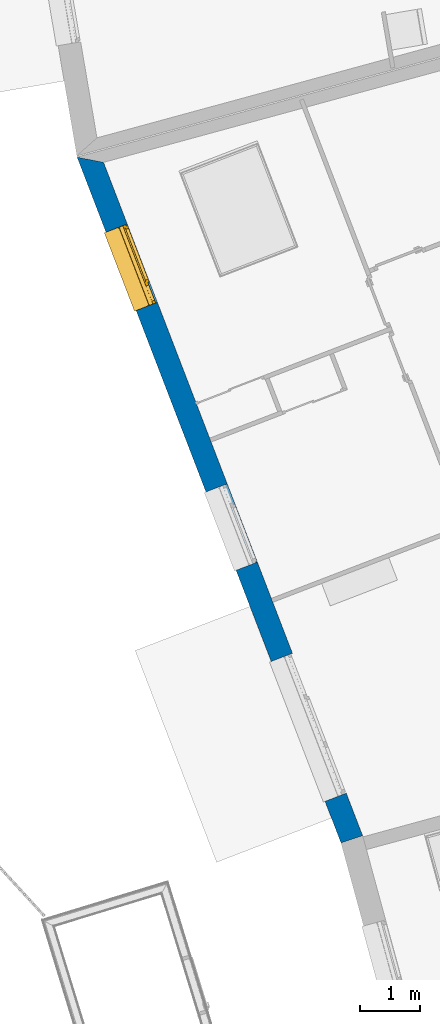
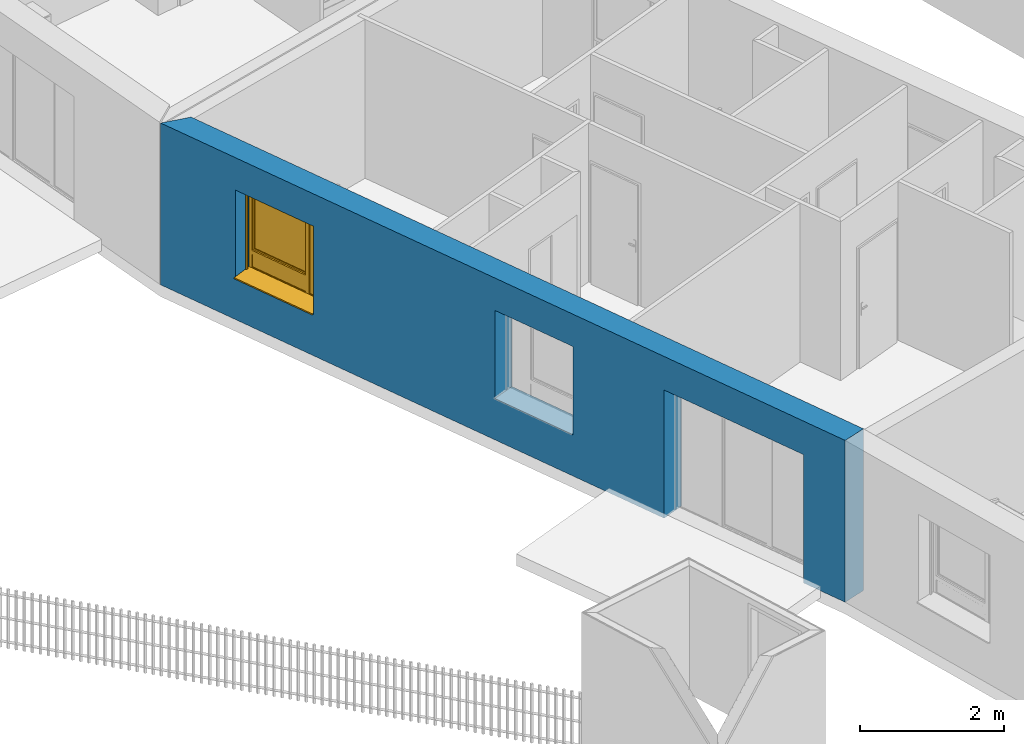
# One storey, part 74 of 195: 1 wall, 1 window, 3 openings.
"""IFC2X3 building model written with IfcOpenShell, lengths in metres."""

import ifcopenshell
import ifcopenshell.guid

model = None  # the IFC model being written
_history = None  # IfcOwnerHistory: only IFC2X3 demands one
_inside = {}  # id of a spatial element -> (the spatial element, [elements in it])
_under = {}  # id of a project, library or spatial element -> (it, [spatial elements below it])
_declared = {}  # id of a project -> (the project, [libraries it declares])
_typed = {}  # id of a type object -> (the type object, [elements of that type])
_made_of = {}  # id of a material, layer set ... -> (it, [elements and type objects made of it])


def new_model(schema):
    """Start an empty IFC model of exactly this schema.

    Asked for "IFC4X3", IfcOpenShell would pick the latest addendum, in which some entities
    have other attributes; the version numbers below select the first issue.
    IFC2X3 requires an IfcOwnerHistory on every rooted entity: one is made here for all.
    """
    global model, _history
    if schema == "IFC4X3":
        model = ifcopenshell.file(schema_version=(4, 3, 0, 0))
    else:
        model = ifcopenshell.file(schema=schema)
    _inside.clear()
    _under.clear()
    _declared.clear()
    _typed.clear()
    _made_of.clear()
    _history = None
    if model.schema == "IFC2X3":
        org = make("IfcOrganization", Name="unknown")
        user = make(
            "IfcPersonAndOrganization",
            ThePerson=make("IfcPerson", FamilyName="unknown"),
            TheOrganization=org,
        )
        app = make(
            "IfcApplication",
            ApplicationDeveloper=org,
            Version="unknown",
            ApplicationFullName="unknown",
            ApplicationIdentifier="unknown",
        )
        _history = make(
            "IfcOwnerHistory",
            OwningUser=user,
            OwningApplication=app,
            ChangeAction="ADDED",
            CreationDate=0,
        )
    return model


def make(cls, **values):
    """One entity of the class cls with the attributes given. An attribute that is None is left unset."""
    return model.create_entity(
        cls, **{name: value for name, value in values.items() if value is not None}
    )


def entity(cls, *values):
    """Any entity or typed value of the class cls, its attributes in the order of the schema. None: left unset."""
    e = model.create_entity(cls)
    for i, value in enumerate(values):
        if value is not None:
            e[i] = value
    return e


def rooted(cls, **values):
    """An entity with a GlobalId (a new one), such as an element, a storey or a relation."""
    return make(cls, GlobalId=ifcopenshell.guid.new(), OwnerHistory=_history, **values)


def si_unit(unit_type, name, prefix=None):
    """IfcSIUnit, for example si_unit("LENGTHUNIT", "METRE", prefix="MILLI")."""
    return make("IfcSIUnit", UnitType=unit_type, Prefix=prefix, Name=name)


def converted_unit(unit_type, name, factor, base, dimensions=None, offset=None):
    """IfcConversionBasedUnit, such as the inch: factor (a typed value) times the base unit."""
    return make(
        "IfcConversionBasedUnit"
        if offset is None
        else "IfcConversionBasedUnitWithOffset",
        ConversionOffset=offset,
        Dimensions=None
        if dimensions is None
        else entity("IfcDimensionalExponents", *dimensions),
        UnitType=unit_type,
        Name=name,
        ConversionFactor=make(
            "IfcMeasureWithUnit", ValueComponent=factor, UnitComponent=base
        ),
    )


def derived_unit(unit_type, elements):
    """IfcDerivedUnit: a product of units, each with its exponent."""
    return make(
        "IfcDerivedUnit",
        Elements=[
            make("IfcDerivedUnitElement", Unit=unit, Exponent=power)
            for unit, power in elements
        ],
        UnitType=unit_type,
    )


def money_unit(currency):
    """IfcMonetaryUnit."""
    return make("IfcMonetaryUnit", Currency=currency)


def assignment(units):
    """IfcUnitAssignment: the units of a project."""
    return None if units is None else make("IfcUnitAssignment", Units=units)


def point(xyz):
    """IfcCartesianPoint."""
    return None if xyz is None else make("IfcCartesianPoint", Coordinates=xyz)


def direction(xyz):
    """IfcDirection."""
    return None if xyz is None else make("IfcDirection", DirectionRatios=xyz)


def frame(location, z_axis=None, x_axis=None):
    """IfcAxis2Placement3D, a coordinate frame: its origin and axes. An axis left out is left unset."""
    return make(
        "IfcAxis2Placement3D",
        Location=point(location),
        Axis=direction(z_axis),
        RefDirection=direction(x_axis),
    )


def origin_with_axes():
    """The frame at (0, 0, 0) with the z axis (0, 0, 1) and the x axis (1, 0, 0) written out."""
    return frame((0.0, 0.0, 0.0), z_axis=(0.0, 0.0, 1.0), x_axis=(1.0, 0.0, 0.0))


def place(relative_to, where):
    """IfcLocalPlacement: puts the frame where relative to a parent placement (None: the world)."""
    return make(
        "IfcLocalPlacement", PlacementRelTo=relative_to, RelativePlacement=where
    )


def context(
    kind, dimensions, precision=None, world=None, true_north=None, identifier=None
):
    """IfcGeometricRepresentationContext, for example the 3D "Model" context."""
    return make(
        "IfcGeometricRepresentationContext",
        ContextIdentifier=identifier,
        ContextType=kind,
        CoordinateSpaceDimension=dimensions,
        Precision=precision,
        WorldCoordinateSystem=world,
        TrueNorth=true_north,
    )


def subcontext(parent, identifier, kind, view, scale=None):
    """IfcGeometricRepresentationSubContext, for example "Body" below "Model"."""
    return make(
        "IfcGeometricRepresentationSubContext",
        ContextIdentifier=identifier,
        ContextType=kind,
        ParentContext=parent,
        TargetScale=scale,
        TargetView=view,
    )


def project(units=None, contexts=None):
    """IfcProject with its units and contexts."""
    return rooted(
        "IfcProject",
        Name="project",
        RepresentationContexts=contexts,
        UnitsInContext=assignment(units),
    )


def spatial(cls, under=None, at=None, **own):
    """A site, building, storey or space (cls), placed at a placement, below another one or the project."""
    s = rooted(cls, ObjectPlacement=at, **own)
    if under is not None:
        _under.setdefault(under.id(), (under, []))[1].append(s)
    return s


def polyline(points):
    """IfcPolyline through the points."""
    return make("IfcPolyline", Points=[point(p) for p in points])


def outline(outer, holes=None, kind="AREA"):
    """IfcArbitraryClosedProfileDef: a profile drawn as a closed curve; with holes, ...WithVoids."""
    if holes is None:
        return make("IfcArbitraryClosedProfileDef", ProfileType=kind, OuterCurve=outer)
    return make(
        "IfcArbitraryProfileDefWithVoids",
        ProfileType=kind,
        OuterCurve=outer,
        InnerCurves=holes,
    )


def extrude(swept, where, along, depth):
    """IfcExtrudedAreaSolid: the profile swept, set in the frame where, extruded along a direction by depth."""
    return make(
        "IfcExtrudedAreaSolid",
        SweptArea=swept,
        Position=where,
        ExtrudedDirection=direction(along),
        Depth=depth,
    )


def faces_of(points, faces, orient=None, outer=None):
    """IfcFace entities. A face is a list of loops; a loop is a list of indices into points, from 0.

    orient and outer hold one flag for each loop. By default every Orientation is true, the
    first loop of a face is its IfcFaceOuterBound and the others are IfcFaceBound.
    """
    made = []
    for i, loops in enumerate(faces):
        bounds = []
        for j, loop in enumerate(loops):
            is_outer = j == 0 if outer is None else outer[i][j]
            bounds.append(
                make(
                    "IfcFaceOuterBound" if is_outer else "IfcFaceBound",
                    Bound=make("IfcPolyLoop", Polygon=[points[k] for k in loop]),
                    Orientation=True if orient is None else orient[i][j],
                )
            )
        made.append(make("IfcFace", Bounds=bounds))
    return made


def open_shell(faces, orient=None, outer=None):
    """The faces of one IfcOpenShell. surface_model builds it on its shared points."""
    return ("IfcOpenShell", faces, orient, outer)


def faceted_brep(points, faces, orient=None, outer=None, voids=None):
    """IfcFacetedBrep: a solid bounded by flat faces; with voids (closed shells), ...WithVoids."""
    shared = [point(p) for p in points]
    hull = make("IfcClosedShell", CfsFaces=faces_of(shared, faces, orient, outer))
    if voids is None:
        return make("IfcFacetedBrep", Outer=hull)
    return make(
        "IfcFacetedBrepWithVoids",
        Outer=hull,
        Voids=[
            make(cls, CfsFaces=faces_of(shared, fs, o, b)) for cls, fs, o, b in voids
        ],
    )


def surface_model(cls, points, shells):
    """IfcFaceBasedSurfaceModel or IfcShellBasedSurfaceModel (cls): surfaces that need not close."""
    shared = [point(p) for p in points]
    made = [make(c, CfsFaces=faces_of(shared, fs, o, b)) for c, fs, o, b in shells]
    if cls == "IfcFaceBasedSurfaceModel":
        return make(cls, FbsmFaces=made)
    return make(cls, SbsmBoundary=made)


def shape(context_of_items, identifier, shape_type, items):
    """IfcShapeRepresentation: the items that make up one representation, for example the "Body"."""
    return make(
        "IfcShapeRepresentation",
        ContextOfItems=context_of_items,
        RepresentationIdentifier=identifier,
        RepresentationType=shape_type,
        Items=items,
    )


def source(mapping_origin, context_of_items, identifier, shape_type, items):
    """IfcRepresentationMap: a shape defined once, which mapped items show again and again."""
    return make(
        "IfcRepresentationMap",
        MappingOrigin=mapping_origin,
        MappedRepresentation=shape(context_of_items, identifier, shape_type, items),
    )


def transform(
    local_origin,
    x_axis=None,
    y_axis=None,
    z_axis=None,
    scale=None,
    scale2=None,
    scale3=None,
    uniform=True,
):
    """IfcCartesianTransformationOperator3D, or its non-uniform kind. x_axis, y_axis, z_axis: its Axis1, 2, 3."""
    if uniform:
        return make(
            "IfcCartesianTransformationOperator3D",
            Axis1=direction(x_axis),
            Axis2=direction(y_axis),
            LocalOrigin=point(local_origin),
            Scale=scale,
            Axis3=direction(z_axis),
        )
    return make(
        "IfcCartesianTransformationOperator3DnonUniform",
        Axis1=direction(x_axis),
        Axis2=direction(y_axis),
        LocalOrigin=point(local_origin),
        Scale=scale,
        Axis3=direction(z_axis),
        Scale2=scale2,
        Scale3=scale3,
    )


def mapped(mapping_source, mapping_target):
    """IfcMappedItem: shows the shape of a source again, moved by a transform."""
    return make(
        "IfcMappedItem", MappingSource=mapping_source, MappingTarget=mapping_target
    )


def material(Name=None, Category=None):
    """IfcMaterial."""
    return make("IfcMaterial", Name=Name, Category=Category)


def layer(
    of_material, thickness, ventilated=None, Name=None, Category=None, Priority=None
):
    """IfcMaterialLayer: one layer of a wall or slab, of a material (None: an air gap)."""
    return make(
        "IfcMaterialLayer",
        Material=of_material,
        LayerThickness=thickness,
        IsVentilated=ventilated,
        Name=Name,
        Category=Category,
        Priority=Priority,
    )


def layer_set(layers, Name=None):
    """IfcMaterialLayerSet."""
    return make("IfcMaterialLayerSet", MaterialLayers=layers, LayerSetName=Name)


def layer_usage(for_layer_set, set_direction, sense, offset, extent=None):
    """IfcMaterialLayerSetUsage: how a layer set lies in its element."""
    return make(
        "IfcMaterialLayerSetUsage",
        ForLayerSet=for_layer_set,
        LayerSetDirection=set_direction,
        DirectionSense=sense,
        OffsetFromReferenceLine=offset,
        ReferenceExtent=extent,
    )


def made_of(thing, what):
    """Note that an element or type object is made of a material, layer set ...; save() writes the relation."""
    if what is not None:
        _made_of.setdefault(what.id(), (what, []))[1].append(thing)
    return thing


def type_object(cls, material=None, **own):
    """A type object (cls), such as IfcWallType, which elements share."""
    return made_of(rooted(cls, **own), material)


def element(
    cls,
    number,
    at=None,
    inside=None,
    cuts=None,
    type_object=None,
    material=None,
    context=None,
    identifier="Body",
    shape_type=None,
    held_by="IfcProductDefinitionShape",
    body=None,
    shapes=None,
    **own,
):
    """One element of the class cls, such as IfcWall. Its Tag is "e" and its number.

    at: its placement. inside: the storey or other place that contains it. cuts: it is an
    opening in that element (IfcRelVoidsElement). A single representation is given by context,
    identifier, shape_type and body (its items); several are given by shapes. held_by: the class
    of the entity that holds the representations. save() writes the other relations.
    """
    e = rooted(cls, Tag="e%d" % number, ObjectPlacement=at, **own)
    if body is not None:
        shapes = [shape(context, identifier, shape_type, body)]
    if shapes is not None:
        e.Representation = make(held_by, Representations=shapes)
    if inside is not None:
        _inside.setdefault(inside.id(), (inside, []))[1].append(e)
    if cuts is not None:
        rooted(
            "IfcRelVoidsElement", RelatingBuildingElement=cuts, RelatedOpeningElement=e
        )
    if type_object is not None:
        _typed.setdefault(type_object.id(), (type_object, []))[1].append(e)
    return made_of(e, material)


def fill(opening, filler):
    """IfcRelFillsElement: the door or window that sits in an opening."""
    return rooted(
        "IfcRelFillsElement",
        RelatingOpeningElement=opening,
        RelatedBuildingElement=filler,
    )


def aggregate(whole, parts):
    """IfcRelAggregates: a whole, such as a stair, and the parts it consists of."""
    return rooted("IfcRelAggregates", RelatingObject=whole, RelatedObjects=parts)


def save(model, path):
    """Write the relations noted so far, then the file.

    IfcRelAggregates (storeys below a building ...), IfcRelContainedInSpatialStructure (elements
    in a storey), IfcRelDefinesByType, IfcRelAssociatesMaterial and IfcRelDeclares: one each for
    every whole, place, type object, material and project.
    """
    for whole, parts in _under.values():
        aggregate(whole, parts)
    for where, things in _inside.values():
        rooted(
            "IfcRelContainedInSpatialStructure",
            RelatedElements=things,
            RelatingStructure=where,
        )
    for kind, things in _typed.values():
        rooted("IfcRelDefinesByType", RelatedObjects=things, RelatingType=kind)
    for what, things in _made_of.values():
        rooted("IfcRelAssociatesMaterial", RelatedObjects=things, RelatingMaterial=what)
    for by, libraries in _declared.values():
        rooted("IfcRelDeclares", RelatingContext=by, RelatedDefinitions=libraries)
    model.write(path)


model = new_model("IFC2X3")

# Units and contexts
model_context = context("Model", 3, precision=1e-05, world=origin_with_axes(), true_north=direction((0.0, 1.0)))
body_context = subcontext(model_context, "Body", "Model", "MODEL_VIEW")
ifc_project = project(units=[si_unit("LENGTHUNIT", "METRE"), si_unit("AREAUNIT", "SQUARE_METRE"), si_unit("VOLUMEUNIT", "CUBIC_METRE"), converted_unit("PLANEANGLEUNIT", "DEGREE", entity("IfcPlaneAngleMeasure", 0.0174532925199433), si_unit("PLANEANGLEUNIT", "RADIAN"), dimensions=[0, 0, 0, 0, 0, 0, 0]), money_unit("CHF"), converted_unit("TIMEUNIT", "Year", entity("IfcTimeMeasure", 31557600.0), si_unit("TIMEUNIT", "SECOND"), dimensions=[0, 0, 1, 0, 0, 0, 0]), si_unit("MASSUNIT", "GRAM", prefix="KILO"), si_unit("THERMODYNAMICTEMPERATUREUNIT", "DEGREE_CELSIUS"), si_unit("LUMINOUSINTENSITYUNIT", "LUMEN"), si_unit("ENERGYUNIT", "JOULE", prefix="MEGA"), derived_unit("THERMALCONDUCTANCEUNIT", [(si_unit("POWERUNIT", "WATT"), 1), (si_unit("LENGTHUNIT", "METRE"), -1), (si_unit("THERMODYNAMICTEMPERATUREUNIT", "KELVIN"), -1)]), derived_unit("SPECIFICHEATCAPACITYUNIT", [(si_unit("ENERGYUNIT", "JOULE"), 1), (si_unit("MASSUNIT", "GRAM", prefix="KILO"), -1), (si_unit("THERMODYNAMICTEMPERATUREUNIT", "KELVIN"), -1)]), derived_unit("MASSDENSITYUNIT", [(si_unit("MASSUNIT", "GRAM", prefix="KILO"), 1), (si_unit("VOLUMEUNIT", "CUBIC_METRE"), -1)])], contexts=[model_context])

# Site, building, storey
site_placement = place(None, origin_with_axes())
site = spatial("IfcSite", under=ifc_project, at=site_placement, Name="Site", CompositionType="ELEMENT")
building_placement = place(site_placement, origin_with_axes())
building = spatial("IfcBuilding", under=site, at=building_placement, Name="Bâtiment", CompositionType="ELEMENT")
storey_placement = place(building_placement, origin_with_axes())
storey = spatial("IfcBuildingStorey", under=building, at=storey_placement, Name="rdc", CompositionType="ELEMENT", Elevation=0.0)

# Wall, openings, window
ifc_material_1 = material(Name="Parpaing 312445824")
ifc_layer_1 = layer(ifc_material_1, 0.22, ventilated="UNKNOWN")
ifc_material_2 = material(Name="Isolant styromousse 301821074")
ifc_layer_2 = layer(ifc_material_2, 0.16, ventilated="UNKNOWN")
ifc_layer_set = layer_set([ifc_layer_1, ifc_layer_2], Name="isol int 22+16 0836643197")
ifc_layer_usage = layer_usage(ifc_layer_set, "AXIS2", "POSITIVE", 0.0)
wall_type = type_object("IfcWallType", Name="isol int 22+16 0836643197 380", PredefinedType="NOTDEFINED")
wall_placement = place(storey_placement, frame((9581.97653269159, -1035.644242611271, 57.7), z_axis=(0.0, 0.0, 1.0), x_axis=(0.3591526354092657, -0.9332788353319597, 0.0)))
wall = element("IfcWallStandardCase", 1, at=wall_placement, inside=storey, type_object=wall_type, material=ifc_layer_usage, Name="Mur-113", context=body_context, shape_type="SweptSolid", body=[
    extrude(outline(polyline([(0.0, 0.0), (12.25544607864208, 0.0), (12.27474861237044, 0.3799999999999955), (0.2397397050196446, 0.3799999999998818), (0.0, 0.0)])), origin_with_axes(), (0.0, 0.0, 1.0), 2.75),
])
opening_1_placement = place(wall_placement, frame((2.041326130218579, 0.0, 0.7000000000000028), z_axis=(0.0, 0.0, 1.0), x_axis=(1.0, 0.0, 0.0)))
opening_1 = element("IfcOpeningElement", 2, at=opening_1_placement, cuts=wall, Name="Fen-045", context=body_context, shape_type="Brep", body=[
    faceted_brep([(-0.7000000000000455, 0.4799999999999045, 1.5), (0.6999999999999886, 0.4799999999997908, 1.5), (0.6999999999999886, 4.488897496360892, 1.5), (-0.6999999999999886, 4.488897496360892, 1.5), (-0.7000000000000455, 0.4799999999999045, 1.700000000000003), (0.6999999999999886, 0.4799999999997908, 1.700000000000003), (0.6999999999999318, 0.2999999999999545, 1.5), (0.6999999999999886, 0.2999999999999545, 0.0), (0.6999999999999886, 4.488897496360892, 0.0), (-0.6999999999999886, 4.488897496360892, 0.0), (-0.7000000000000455, 0.2999999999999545, 1.5), (-0.7000000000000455, 0.2999999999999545, 0.0), (-0.7000000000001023, 0.2199999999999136, 1.5), (-0.7000000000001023, 0.2199999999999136, 1.700000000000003), (0.6999999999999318, 0.2199999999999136, 1.700000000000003), (0.6999999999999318, 0.2199999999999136, 1.5), (0.6999999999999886, -4.108897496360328, 1.5), (0.6999999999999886, -4.108897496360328, 0.0), (-0.6999999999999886, -4.108897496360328, 0.0), (-0.6999999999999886, -4.108897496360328, 1.5)], [[[0, 1, 2, 3]], [[1, 0, 4, 5]], [[1, 6, 7, 8, 2]], [[2, 8, 9, 3]], [[10, 0, 3, 9, 11]], [[0, 10, 12, 13, 4]], [[14, 5, 4, 13]], [[6, 1, 5, 14, 15]], [[6, 15, 16, 17, 7]], [[7, 11, 9, 8]], [[12, 10, 11, 18, 19]], [[12, 15, 14, 13]], [[15, 12, 19, 16]], [[19, 18, 17, 16]], [[11, 7, 17, 18]]]),
])
opening_2_placement = place(wall_placement, frame((10.26361787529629, 0.0, 0.0), z_axis=(0.0, 0.0, 1.0), x_axis=(1.0, 0.0, 0.0)))
element("IfcOpeningElement", 3, at=opening_2_placement, cuts=wall, Name="Fen-045", context=body_context, shape_type="Brep", body=[
    faceted_brep([(-1.25, 0.4800000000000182, 2.18), (1.25, 0.4800000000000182, 2.18), (1.250000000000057, 4.488897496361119, 2.18), (-1.25, 4.488897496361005, 2.18), (-1.25, 0.4800000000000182, 2.380000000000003), (1.25, 0.4800000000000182, 2.380000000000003), (1.25, 0.3000000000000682, 2.18), (1.25, 0.3000000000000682, 0.0), (1.250000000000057, 4.488897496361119, 0.0), (-1.25, 4.488897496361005, 0.0), (-1.25, 0.3000000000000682, 2.18), (-1.25, 0.3000000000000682, 0.0), (-1.25, 0.2200000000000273, 2.18), (-1.25, 0.2200000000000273, 2.380000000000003), (1.25, 0.220000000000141, 2.380000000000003), (1.25, 0.220000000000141, 2.18), (1.25, -4.108897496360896, 2.18), (1.25, -4.108897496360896, 0.0), (-1.25, -4.108897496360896, 0.0), (-1.25, -4.108897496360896, 2.18)], [[[0, 1, 2, 3]], [[1, 0, 4, 5]], [[1, 6, 7, 8, 2]], [[2, 8, 9, 3]], [[10, 0, 3, 9, 11]], [[0, 10, 12, 13, 4]], [[4, 13, 14, 5]], [[6, 1, 5, 14, 15]], [[6, 15, 16, 17, 7]], [[7, 11, 9, 8]], [[12, 10, 11, 18, 19]], [[12, 15, 14, 13]], [[15, 12, 19, 16]], [[19, 18, 17, 16]], [[11, 7, 17, 18]]]),
])
opening_3_placement = place(wall_placement, frame((6.684094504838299, 0.0, 0.7000000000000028), z_axis=(0.0, 0.0, 1.0), x_axis=(1.0, 0.0, 0.0)))
element("IfcOpeningElement", 4, at=opening_3_placement, cuts=wall, Name="Fen-045", context=body_context, shape_type="Brep", body=[
    faceted_brep([(-0.6999999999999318, 0.4800000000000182, 1.5), (0.7000000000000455, 0.4800000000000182, 1.5), (0.7000000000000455, 4.488897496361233, 1.5), (-0.6999999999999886, 4.488897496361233, 1.5), (-0.6999999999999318, 0.4800000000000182, 1.700000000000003), (0.7000000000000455, 0.4800000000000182, 1.700000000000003), (0.6999999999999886, 0.3000000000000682, 1.5), (0.6999999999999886, 0.3000000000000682, 0.0), (0.7000000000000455, 4.488897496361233, 0.0), (-0.6999999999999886, 4.488897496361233, 0.0), (-0.6999999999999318, 0.2999999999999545, 1.5), (-0.6999999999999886, 0.2999999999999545, 0.0), (-0.6999999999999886, 0.2200000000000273, 1.5), (-0.6999999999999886, 0.2200000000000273, 1.700000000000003), (0.7000000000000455, 0.2200000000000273, 1.700000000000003), (0.7000000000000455, 0.2200000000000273, 1.5), (0.6999999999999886, -4.108897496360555, 1.5), (0.6999999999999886, -4.108897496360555, 0.0), (-0.6999999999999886, -4.108897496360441, 0.0), (-0.6999999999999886, -4.108897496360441, 1.5)], [[[0, 1, 2, 3]], [[1, 0, 4, 5]], [[1, 6, 7, 8, 2]], [[2, 8, 9, 3]], [[10, 0, 3, 9, 11]], [[0, 10, 12, 13, 4]], [[4, 13, 14, 5]], [[6, 1, 5, 14, 15]], [[6, 15, 16, 17, 7]], [[7, 11, 9, 8]], [[12, 10, 11, 18, 19]], [[12, 15, 14, 13]], [[15, 12, 19, 16]], [[19, 18, 17, 16]], [[11, 7, 17, 18]]]),
])
window_style = type_object("IfcWindowStyle", Name="Fenêtre variable 27", ConstructionType="NOTDEFINED", OperationType="TRIPLE_PANEL_RIGHT", ParameterTakesPrecedence=False, Sizeable=False)
shared_shape = source(origin_with_axes(), body_context, "Body", "SurfaceModel", [
    surface_model("IfcShellBasedSurfaceModel", [(-0.7, -0.05100000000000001, 0.05), (-0.7, -0.05100000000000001, 0.04), (0.7, -0.05100000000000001, 0.04000000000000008), (0.7, -0.05100000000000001, 0.05000000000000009), (-0.7, -0.3799999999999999, 0.02899999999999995), (0.7, -0.3799999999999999, 0.02900000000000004), (-0.7, -0.3799999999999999, 0.008999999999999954), (0.7, -0.3799999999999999, 0.00900000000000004), (-0.7, -0.3699999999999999, 0.01899999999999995), (0.7, -0.3699999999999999, 0.01900000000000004)], [open_shell([[[0, 1, 2, 3]], [[1, 4, 5, 2]], [[4, 6, 7, 5]], [[6, 8, 9, 7]]])]),
    faceted_brep([(-0.7, -0.13, 1.7), (-0.697, -0.13, 1.7), (-0.697, 0.13, 1.7), (-0.7, 0.13, 1.7), (-0.7, -0.13, 1.5), (-0.697, -0.13, 1.5), (-0.697, 0.13, 1.5), (-0.7, 0.13, 1.5)], [[[0, 1, 2, 3]], [[4, 5, 1, 0]], [[1, 5, 6, 2]], [[3, 2, 6, 7]], [[0, 3, 7, 4]], [[7, 6, 5, 4]]]),
    faceted_brep([(0.6970000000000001, -0.1299999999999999, 1.7), (0.7000000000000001, -0.1299999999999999, 1.7), (0.7000000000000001, 0.1300000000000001, 1.7), (0.6970000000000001, 0.1300000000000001, 1.7), (0.6970000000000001, -0.1299999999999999, 1.5), (0.7000000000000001, -0.1299999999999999, 1.5), (0.7000000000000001, 0.1300000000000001, 1.5), (0.6970000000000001, 0.1300000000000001, 1.5)], [[[0, 1, 2, 3]], [[4, 5, 1, 0]], [[1, 5, 6, 2]], [[3, 2, 6, 7]], [[0, 3, 7, 4]], [[7, 6, 5, 4]]]),
    faceted_brep([(-0.697, -0.13, 1.5), (0.697, -0.1299999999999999, 1.5), (0.697, -0.1299999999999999, 1.7), (-0.697, -0.13, 1.7), (-0.697, -0.127, 1.5), (0.697, -0.1269999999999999, 1.5), (0.697, -0.1269999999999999, 1.697), (0.697, 0.1270000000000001, 1.697), (0.697, 0.1270000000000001, 1.503), (0.697, -0.1079999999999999, 1.503), (0.697, -0.1079999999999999, 1.5), (0.697, 0.1300000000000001, 1.5), (0.697, 0.1300000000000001, 1.7), (-0.697, 0.13, 1.7), (-0.697, 0.13, 1.5), (-0.697, -0.108, 1.5), (-0.697, -0.108, 1.503), (-0.697, 0.127, 1.503), (-0.697, 0.127, 1.697), (-0.697, -0.127, 1.697)], [[[0, 1, 2, 3]], [[4, 5, 1, 0]], [[1, 5, 6, 7, 8, 9, 10, 11, 12, 2]], [[3, 2, 12, 13]], [[0, 3, 13, 14, 15, 16, 17, 18, 19, 4]], [[19, 6, 5, 4]], [[18, 7, 6, 19]], [[17, 8, 7, 18]], [[16, 9, 8, 17]], [[15, 10, 9, 16]], [[14, 11, 10, 15]], [[13, 12, 11, 14]]]),
    faceted_brep([(-0.694, -0.08075423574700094, 1.585760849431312), (-0.694, -0.08200000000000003, 1.6), (-0.694, -0.0807542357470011, 1.614239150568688), (-0.694, -0.07705479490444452, 1.628045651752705), (-0.694, -0.07101408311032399, 1.641), (-0.694, -0.06281564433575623, 1.652708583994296), (-0.694, -0.05270858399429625, 1.662815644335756), (-0.694, -0.04100000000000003, 1.671014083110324), (-0.694, -0.02804565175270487, 1.677054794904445), (-0.694, -0.01423915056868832, 1.680754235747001), (-0.694, 0.0, 1.682), (-0.694, 0.01423915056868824, 1.680754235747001), (-0.694, 0.02804565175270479, 1.677054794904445), (-0.694, 0.04099999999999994, 1.671014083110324), (-0.694, 0.05270858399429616, 1.662815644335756), (-0.694, 0.06281564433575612, 1.652708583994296), (-0.694, 0.07101408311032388, 1.641), (-0.694, 0.0770547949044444, 1.628045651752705), (-0.694, 0.08075423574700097, 1.614239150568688), (-0.694, 0.0819999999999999, 1.6), (-0.694, 0.08075423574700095, 1.585760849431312), (-0.694, 0.07705479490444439, 1.571954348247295), (-0.694, 0.07101408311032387, 1.559), (-0.694, 0.06281564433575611, 1.547291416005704), (-0.694, 0.05270858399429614, 1.537184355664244), (-0.694, 0.04099999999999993, 1.528985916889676), (-0.694, 0.02804565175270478, 1.522945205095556), (-0.694, 0.01423915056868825, 1.519245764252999), (-0.694, 0.0, 1.518), (-0.694, -0.01423915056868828, 1.519245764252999), (-0.694, -0.02804565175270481, 1.522945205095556), (-0.694, -0.04099999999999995, 1.528985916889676), (-0.694, -0.05270858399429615, 1.537184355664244), (-0.694, -0.06281564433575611, 1.547291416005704), (-0.694, -0.07101408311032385, 1.559), (-0.694, -0.07705479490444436, 1.571954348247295), (0.694, -0.08075423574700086, 1.585760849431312), (0.694, -0.08199999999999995, 1.6), (0.694, -0.08075423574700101, 1.614239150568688), (0.694, -0.07705479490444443, 1.628045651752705), (0.694, -0.07101408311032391, 1.641), (0.694, -0.06281564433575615, 1.652708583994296), (0.694, -0.05270858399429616, 1.662815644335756), (0.694, -0.04099999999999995, 1.671014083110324), (0.694, -0.02804565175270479, 1.677054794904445), (0.694, -0.01423915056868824, 1.680754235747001), (0.694, 0.0, 1.682), (0.694, 0.01423915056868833, 1.680754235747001), (0.694, 0.02804565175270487, 1.677054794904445), (0.694, 0.04100000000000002, 1.671014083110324), (0.694, 0.05270858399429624, 1.662815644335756), (0.694, 0.0628156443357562, 1.652708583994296), (0.694, 0.07101408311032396, 1.641), (0.694, 0.07705479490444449, 1.628045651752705), (0.694, 0.08075423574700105, 1.614239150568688), (0.694, 0.08199999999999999, 1.6), (0.694, 0.08075423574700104, 1.585760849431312), (0.694, 0.07705479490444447, 1.571954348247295), (0.694, 0.07101408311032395, 1.559), (0.694, 0.06281564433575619, 1.547291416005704), (0.694, 0.05270858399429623, 1.537184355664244), (0.694, 0.04100000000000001, 1.528985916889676), (0.694, 0.02804565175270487, 1.522945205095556), (0.694, 0.01423915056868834, 1.519245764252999), (0.694, 0.0, 1.518), (0.694, -0.0142391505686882, 1.519245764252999), (0.694, -0.02804565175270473, 1.522945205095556), (0.694, -0.04099999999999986, 1.528985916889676), (0.694, -0.05270858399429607, 1.537184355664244), (0.694, -0.06281564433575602, 1.547291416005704), (0.694, -0.07101408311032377, 1.559), (0.694, -0.07705479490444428, 1.571954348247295)], [[[0, 1, 2, 3, 4, 5, 6, 7, 8, 9, 10, 11, 12, 13, 14, 15, 16, 17, 18, 19, 20, 21, 22, 23, 24, 25, 26, 27, 28, 29, 30, 31, 32, 33, 34, 35]], [[0, 36, 37, 1]], [[1, 37, 38, 2]], [[2, 38, 39, 3]], [[3, 39, 40, 4]], [[4, 40, 41, 5]], [[5, 41, 42, 6]], [[6, 42, 43, 7]], [[7, 43, 44, 8]], [[8, 44, 45, 9]], [[9, 45, 46, 10]], [[10, 46, 47, 11]], [[11, 47, 48, 12]], [[12, 48, 49, 13]], [[13, 49, 50, 14]], [[14, 50, 51, 15]], [[15, 51, 52, 16]], [[16, 52, 53, 17]], [[17, 53, 54, 18]], [[18, 54, 55, 19]], [[19, 55, 56, 20]], [[20, 56, 57, 21]], [[21, 57, 58, 22]], [[22, 58, 59, 23]], [[23, 59, 60, 24]], [[24, 60, 61, 25]], [[25, 61, 62, 26]], [[26, 62, 63, 27]], [[27, 63, 64, 28]], [[28, 64, 65, 29]], [[29, 65, 66, 30]], [[30, 66, 67, 31]], [[31, 67, 68, 32]], [[32, 68, 69, 33]], [[33, 69, 70, 34]], [[34, 70, 71, 35]], [[35, 71, 36, 0]], [[36, 71, 70, 69, 68, 67, 66, 65, 64, 63, 62, 61, 60, 59, 58, 57, 56, 55, 54, 53, 52, 51, 50, 49, 48, 47, 46, 45, 44, 43, 42, 41, 40, 39, 38, 37]]]),
    faceted_brep([(0.7, -0.105, 0.03), (0.7, -0.1049999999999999, 1.5), (0.7, -0.1299999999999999, 1.5), (0.7, -0.13, 0.03), (0.6749999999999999, -0.105, 0.03), (0.6749999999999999, -0.1049999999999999, 1.5), (0.6749999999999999, -0.1079999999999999, 1.5), (0.697, -0.1079999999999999, 1.5), (0.697, -0.1269999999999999, 1.5), (0.6749999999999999, -0.1269999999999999, 1.5), (0.6749999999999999, -0.1299999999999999, 1.5), (0.6749999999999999, -0.13, 0.03), (0.6749999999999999, -0.127, 0.03), (0.697, -0.127, 0.03), (0.697, -0.108, 0.03), (0.6749999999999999, -0.108, 0.03)], [[[0, 1, 2, 3]], [[4, 5, 1, 0]], [[1, 5, 6, 7, 8, 9, 10, 2]], [[3, 2, 10, 11]], [[0, 3, 11, 12, 13, 14, 15, 4]], [[15, 6, 5, 4]], [[14, 7, 6, 15]], [[13, 8, 7, 14]], [[12, 9, 8, 13]], [[11, 10, 9, 12]]]),
    faceted_brep([(-0.7, -0.105, 0.03), (-0.7, -0.13, 0.03), (-0.7, -0.1299999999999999, 1.5), (-0.7, -0.1049999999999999, 1.5), (-0.6749999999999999, -0.105, 0.03), (-0.6749999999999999, -0.108, 0.03), (-0.697, -0.108, 0.03), (-0.697, -0.127, 0.03), (-0.6749999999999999, -0.127, 0.03), (-0.6749999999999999, -0.13, 0.03), (-0.6749999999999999, -0.1299999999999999, 1.5), (-0.6749999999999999, -0.1269999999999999, 1.5), (-0.697, -0.1269999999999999, 1.5), (-0.697, -0.1079999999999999, 1.5), (-0.6749999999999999, -0.1079999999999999, 1.5), (-0.6749999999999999, -0.1049999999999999, 1.5)], [[[0, 1, 2, 3]], [[0, 4, 5, 6, 7, 8, 9, 1]], [[1, 9, 10, 2]], [[3, 2, 10, 11, 12, 13, 14, 15]], [[4, 0, 3, 15]], [[5, 4, 15, 14]], [[6, 5, 14, 13]], [[7, 6, 13, 12]], [[8, 7, 12, 11]], [[9, 8, 11, 10]]]),
    surface_model("IfcShellBasedSurfaceModel", [(-0.697, -0.115, 1.6), (0.697, -0.1149999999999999, 1.6), (0.697, -0.1199999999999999, 1.6), (-0.697, -0.12, 1.6), (-0.697, -0.115, 1.6), (-0.697, -0.12, 1.6), (0.697, -0.12, 1.6), (0.697, -0.1149999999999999, 1.6)], [open_shell([[[0, 1, 2, 3]], [[4, 5, 6, 7]]])]),
    faceted_brep([(-0.697, -0.115, 1.6), (0.697, -0.1149999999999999, 1.6), (0.697, -0.1166666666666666, 1.583333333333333), (-0.697, -0.1166666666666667, 1.583333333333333), (-0.697, -0.12, 1.6), (0.697, -0.1199999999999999, 1.6), (0.697, -0.1216666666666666, 1.583333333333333), (0.697, -0.1216666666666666, 1.566666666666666), (0.697, -0.1199999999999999, 1.55), (0.697, -0.1149999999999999, 1.55), (0.697, -0.1166666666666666, 1.566666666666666), (-0.697, -0.1166666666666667, 1.566666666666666), (-0.697, -0.115, 1.55), (-0.697, -0.12, 1.55), (-0.697, -0.1216666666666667, 1.566666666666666), (-0.697, -0.1216666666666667, 1.583333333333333)], [[[0, 1, 2, 3]], [[4, 5, 1, 0]], [[1, 5, 6, 7, 8, 9, 10, 2]], [[3, 2, 10, 11]], [[0, 3, 11, 12, 13, 14, 15, 4]], [[15, 6, 5, 4]], [[14, 7, 6, 15]], [[13, 8, 7, 14]], [[12, 9, 8, 13]], [[11, 10, 9, 12]]]),
    faceted_brep([(-0.697, -0.115, 1.55), (0.697, -0.1149999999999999, 1.55), (0.697, -0.1166666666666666, 1.533333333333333), (-0.697, -0.1166666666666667, 1.533333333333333), (-0.697, -0.12, 1.55), (0.697, -0.1199999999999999, 1.55), (0.697, -0.1216666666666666, 1.533333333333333), (0.697, -0.1216666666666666, 1.516666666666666), (0.697, -0.1199999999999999, 1.5), (0.697, -0.1149999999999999, 1.5), (0.697, -0.1166666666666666, 1.516666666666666), (-0.697, -0.1166666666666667, 1.516666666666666), (-0.697, -0.115, 1.5), (-0.697, -0.12, 1.5), (-0.697, -0.1216666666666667, 1.516666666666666), (-0.697, -0.1216666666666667, 1.533333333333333)], [[[0, 1, 2, 3]], [[4, 5, 1, 0]], [[1, 5, 6, 7, 8, 9, 10, 2]], [[3, 2, 10, 11]], [[0, 3, 11, 12, 13, 14, 15, 4]], [[15, 6, 5, 4]], [[14, 7, 6, 15]], [[13, 8, 7, 14]], [[12, 9, 8, 13]], [[11, 10, 9, 12]]]),
    faceted_brep([(-0.6749999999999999, 0.0, 1.45), (-0.7, 0.0, 1.45), (-0.7, -0.05000000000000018, 1.45), (-0.6499999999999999, -0.05000000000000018, 1.45), (-0.6499999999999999, -0.02500000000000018, 1.45), (-0.6749999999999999, -0.02500000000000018, 1.45), (-0.6749999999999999, 0.0, 0.3099999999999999), (-0.6499999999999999, 0.0, 0.3099999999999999), (-0.6499999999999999, 0.0, 0.265), (-0.6499999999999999, 0.0, 0.05000000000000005), (-0.7, 0.0, 0.05000000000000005), (-0.7, -0.05000000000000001, 0.05000000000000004), (-0.6499999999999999, -0.05000000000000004, 0.335), (-0.6499999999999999, -0.05000000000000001, 0.05000000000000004), (-0.6499999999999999, -0.05000000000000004, 0.265), (-0.6499999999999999, -0.02500000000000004, 0.335), (-0.6499999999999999, -0.02500000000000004, 0.3099999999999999), (-0.6749999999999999, -0.02500000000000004, 0.3099999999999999)], [[[0, 1, 2, 3, 4, 5]], [[6, 7, 8, 9, 10, 1, 0]], [[1, 10, 11, 2]], [[12, 3, 2, 11, 13, 14]], [[4, 3, 12, 15]], [[15, 16, 17, 5, 4]], [[5, 17, 6, 0]], [[6, 17, 16, 7]], [[16, 15, 12, 14, 8, 7]], [[9, 8, 14, 13]], [[10, 9, 13, 11]]]),
    faceted_brep([(0.3068894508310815, -0.02500000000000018, 1.45), (0.3068894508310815, -0.05000000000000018, 1.45), (0.3768894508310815, -0.05000000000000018, 1.45), (0.3768894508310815, 0.0, 1.45), (0.3318894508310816, 0.0, 1.45), (0.3318894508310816, -0.02500000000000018, 1.45), (0.3068894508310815, -0.02500000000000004, 0.335), (0.3068894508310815, -0.05000000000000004, 0.335), (0.3068894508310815, -0.05000000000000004, 0.265), (0.3068894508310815, -0.05000000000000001, 0.05000000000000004), (0.3768894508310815, -0.05000000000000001, 0.05000000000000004), (0.3768894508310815, 0.0, 0.05000000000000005), (0.3318894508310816, 0.0, 0.3099999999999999), (0.3068894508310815, 0.0, 0.05000000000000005), (0.3068894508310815, 0.0, 0.265), (0.3068894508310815, 0.0, 0.3099999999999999), (0.3318894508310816, -0.02500000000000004, 0.3099999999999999), (0.3068894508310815, -0.02500000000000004, 0.3099999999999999)], [[[0, 1, 2, 3, 4, 5]], [[6, 7, 1, 0]], [[8, 9, 10, 2, 1, 7]], [[11, 3, 2, 10]], [[12, 4, 3, 11, 13, 14, 15]], [[12, 16, 5, 4]], [[5, 16, 17, 6, 0]], [[17, 15, 14, 8, 7, 6]], [[14, 13, 9, 8]], [[13, 11, 10, 9]], [[15, 17, 16, 12]]]),
    faceted_brep([(-0.6499999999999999, -0.02500000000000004, 0.335), (-0.6499999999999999, -0.05000000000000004, 0.335), (0.3068894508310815, -0.05000000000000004, 0.335), (0.3068894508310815, -0.02500000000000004, 0.335), (-0.6499999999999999, -0.02500000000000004, 0.3099999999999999), (-0.6499999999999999, 0.0, 0.3099999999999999), (-0.6499999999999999, 0.0, 0.265), (-0.6499999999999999, -0.05000000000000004, 0.265), (0.3068894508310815, -0.05000000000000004, 0.265), (0.3068894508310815, -0.02500000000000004, 0.3099999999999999), (0.3068894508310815, 0.0, 0.265), (0.3068894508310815, 0.0, 0.3099999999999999)], [[[0, 1, 2, 3]], [[4, 5, 6, 7, 1, 0]], [[2, 1, 7, 8]], [[9, 3, 2, 8, 10, 11]], [[9, 4, 0, 3]], [[5, 4, 9, 11]], [[11, 10, 6, 5]], [[6, 10, 8, 7]]]),
    faceted_brep([(-0.6749999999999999, 0.0, 1.45), (-0.7, 0.0, 1.45), (-0.7, 0.0, 1.5), (0.7, 0.0, 1.5), (0.7, 0.0, 1.45), (0.6499999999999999, 0.0, 1.45), (0.3768894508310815, 0.0, 1.45), (0.3318894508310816, 0.0, 1.45), (0.3318894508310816, 0.0, 1.475), (-0.6749999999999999, 0.0, 1.475), (-0.6749999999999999, -0.02500000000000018, 1.45), (-0.6499999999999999, -0.02500000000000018, 1.45), (-0.6499999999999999, -0.05000000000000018, 1.45), (-0.7, -0.05000000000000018, 1.45), (-0.7, -0.05000000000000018, 1.5), (0.7, -0.05000000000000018, 1.5), (0.7, -0.05000000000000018, 1.45), (0.6499999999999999, -0.05000000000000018, 1.45), (0.3768894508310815, -0.05000000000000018, 1.45), (0.3318894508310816, -0.02500000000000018, 1.45), (0.3068894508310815, -0.05000000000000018, 1.45), (0.3068894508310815, -0.02500000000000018, 1.45), (0.3318894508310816, -0.02500000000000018, 1.475), (-0.6749999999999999, -0.02500000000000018, 1.475)], [[[0, 1, 2, 3, 4, 5, 6, 7, 8, 9]], [[10, 11, 12, 13, 1, 0]], [[2, 1, 13, 14]], [[3, 2, 14, 15]], [[4, 3, 15, 16]], [[5, 4, 16, 17]], [[6, 5, 17, 18]], [[19, 7, 6, 18, 20, 21]], [[7, 19, 22, 8]], [[8, 22, 23, 9]], [[9, 23, 10, 0]], [[21, 11, 10, 23, 22, 19]], [[21, 20, 12, 11]], [[18, 17, 16, 15, 14, 13, 12, 20]]]),
    faceted_brep([(0.6499999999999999, -0.05000000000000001, 0.05), (0.6499999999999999, 0.0, 0.05000000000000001), (0.7, 0.0, 0.05000000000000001), (0.7, -0.05000000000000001, 0.05), (0.6499999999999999, -0.05000000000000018, 1.45), (0.6499999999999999, 0.0, 1.45), (0.7, 0.0, 1.45), (0.7, -0.05000000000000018, 1.45)], [[[0, 1, 2, 3]], [[4, 5, 1, 0]], [[1, 5, 6, 2]], [[3, 2, 6, 7]], [[0, 3, 7, 4]], [[7, 6, 5, 4]]]),
    faceted_brep([(-0.6499999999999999, -0.05000000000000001, 0.05), (-0.6499999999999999, 0.0, 0.05000000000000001), (-0.7, 0.0, 0.05000000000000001), (-0.7, -0.05000000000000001, 0.05), (0.3068894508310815, -0.05000000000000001, 0.05), (0.3068894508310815, 0.0, 0.05000000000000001), (0.3768894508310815, 0.0, 0.05000000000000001), (0.6499999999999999, 0.0, 0.05000000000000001), (0.7, 0.0, 0.05000000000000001), (0.7, 0.0, 0.0), (-0.7, 0.0, 0.0), (-0.7, -0.05, 0.0), (0.7, -0.05, 0.0), (0.7, -0.05000000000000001, 0.05), (0.6499999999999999, -0.05000000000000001, 0.05), (0.3768894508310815, -0.05000000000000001, 0.05)], [[[0, 1, 2, 3]], [[4, 5, 1, 0]], [[1, 5, 6, 7, 8, 9, 10, 2]], [[3, 2, 10, 11]], [[0, 3, 11, 12, 13, 14, 15, 4]], [[15, 6, 5, 4]], [[14, 7, 6, 15]], [[13, 8, 7, 14]], [[12, 9, 8, 13]], [[11, 10, 9, 12]]]),
    faceted_brep([(-0.625, -0.02500000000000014, 1.425), (-0.625, 0.02499999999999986, 1.425), (-0.6749999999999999, 0.02499999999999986, 1.425), (-0.6749999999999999, -0.02500000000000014, 1.425), (-0.625, -0.02500000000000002, 0.3599999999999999), (-0.625, 0.02499999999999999, 0.3599999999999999), (-0.6749999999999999, 0.02499999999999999, 0.3599999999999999), (-0.6749999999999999, -0.02500000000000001, 0.3599999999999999)], [[[0, 1, 2, 3]], [[4, 5, 1, 0]], [[1, 5, 6, 2]], [[3, 2, 6, 7]], [[0, 3, 7, 4]], [[7, 6, 5, 4]]]),
    faceted_brep([(0.2818894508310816, -0.02500000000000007, 0.3599999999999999), (0.2818894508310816, 0.02499999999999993, 0.3599999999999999), (0.3318894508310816, 0.02499999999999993, 0.3599999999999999), (0.3318894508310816, -0.02500000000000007, 0.3599999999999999), (0.2818894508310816, -0.0250000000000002, 1.425), (0.2818894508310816, 0.0249999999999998, 1.425), (0.3318894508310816, 0.0249999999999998, 1.425), (0.3318894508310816, -0.0250000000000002, 1.425)], [[[0, 1, 2, 3]], [[4, 5, 1, 0]], [[1, 5, 6, 2]], [[3, 2, 6, 7]], [[0, 3, 7, 4]], [[7, 6, 5, 4]]]),
    faceted_brep([(0.3318894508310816, -0.02500000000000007, 0.3099999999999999), (0.3318894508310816, 0.02499999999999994, 0.3099999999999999), (0.3318894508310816, 0.02499999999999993, 0.3599999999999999), (0.3318894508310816, -0.02500000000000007, 0.3599999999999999), (-0.6749999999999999, -0.025, 0.3099999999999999), (-0.6749999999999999, 0.02499999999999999, 0.3099999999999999), (-0.6749999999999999, 0.02499999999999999, 0.3599999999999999), (-0.625, 0.02499999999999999, 0.3599999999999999), (0.2818894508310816, 0.02499999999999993, 0.3599999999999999), (0.2818894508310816, -0.02500000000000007, 0.3599999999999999), (-0.625, -0.02500000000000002, 0.3599999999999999), (-0.6749999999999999, -0.02500000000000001, 0.3599999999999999)], [[[0, 1, 2, 3]], [[4, 5, 1, 0]], [[1, 5, 6, 7, 8, 2]], [[3, 2, 8, 9]], [[0, 3, 9, 10, 11, 4]], [[11, 6, 5, 4]], [[10, 7, 6, 11]], [[9, 8, 7, 10]]]),
    faceted_brep([(-0.6749999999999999, -0.02500000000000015, 1.475), (-0.6749999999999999, 0.02499999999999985, 1.475), (-0.6749999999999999, 0.02499999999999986, 1.425), (-0.6749999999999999, -0.02500000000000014, 1.425), (0.3318894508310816, -0.02500000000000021, 1.475), (0.3318894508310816, 0.02499999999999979, 1.475), (0.3318894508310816, 0.0249999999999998, 1.425), (0.2818894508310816, 0.0249999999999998, 1.425), (-0.625, 0.02499999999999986, 1.425), (-0.625, -0.02500000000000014, 1.425), (0.2818894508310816, -0.0250000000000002, 1.425), (0.3318894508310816, -0.0250000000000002, 1.425)], [[[0, 1, 2, 3]], [[4, 5, 1, 0]], [[1, 5, 6, 7, 8, 2]], [[3, 2, 8, 9]], [[0, 3, 9, 10, 11, 4]], [[11, 6, 5, 4]], [[10, 7, 6, 11]], [[9, 8, 7, 10]]]),
    surface_model("IfcShellBasedSurfaceModel", [(-0.625, -0.01000000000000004, 0.3599999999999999), (0.2818894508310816, -0.01000000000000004, 0.3599999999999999), (0.2818894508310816, -0.01000000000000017, 1.425), (-0.625, -0.01000000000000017, 1.425)], [open_shell([[[0, 1, 2, 3]]])]),
    surface_model("IfcShellBasedSurfaceModel", [(-0.625, 0.009999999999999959, 0.3599999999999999), (-0.625, 0.00999999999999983, 1.425), (0.2818894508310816, 0.00999999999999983, 1.425), (0.2818894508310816, 0.009999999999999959, 0.3599999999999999)], [open_shell([[[0, 1, 2, 3]]])]),
    surface_model("IfcShellBasedSurfaceModel", [(0.3768894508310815, -0.035, 0.05), (0.65, -0.035, 0.05), (0.65, -0.03500000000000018, 1.45), (0.3768894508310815, -0.03500000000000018, 1.45)], [open_shell([[[0, 1, 2, 3]]])]),
    surface_model("IfcShellBasedSurfaceModel", [(0.3768894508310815, -0.015, 0.05), (0.3768894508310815, -0.01500000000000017, 1.45), (0.65, -0.01500000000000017, 1.45), (0.65, -0.015, 0.05)], [open_shell([[[0, 1, 2, 3]]])]),
    surface_model("IfcShellBasedSurfaceModel", [(-0.6499999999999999, -0.035, 0.05), (0.3068894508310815, -0.035, 0.05), (0.3068894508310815, -0.03500000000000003, 0.265), (-0.6499999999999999, -0.03500000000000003, 0.265)], [open_shell([[[0, 1, 2, 3]]])]),
    surface_model("IfcShellBasedSurfaceModel", [(-0.6499999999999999, -0.015, 0.05), (-0.6499999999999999, -0.01500000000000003, 0.265), (0.3068894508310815, -0.01500000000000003, 0.265), (0.3068894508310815, -0.015, 0.05)], [open_shell([[[0, 1, 2, 3]]])]),
])
window_placement = place(opening_1_placement, frame((-0.6999999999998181, 0.0, 0.0), z_axis=(0.0, 0.0, 1.0), x_axis=(1.0, 0.0, 0.0)))
window = element("IfcWindow", 5, at=window_placement, inside=storey, type_object=window_style, Name="Fen-045", OverallHeight=1.5, OverallWidth=1.4, context=body_context, shape_type="MappedRepresentation", body=[
    mapped(shared_shape, transform((0.6999999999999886, 0.3500000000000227, 0.0))),
])
fill(opening_1, window)

save(model, "model.ifc")
